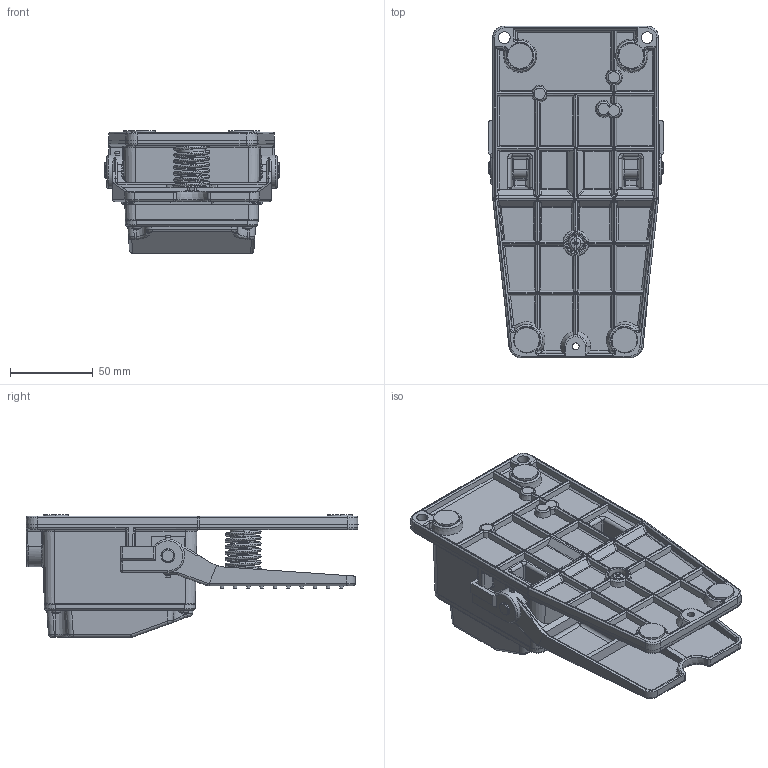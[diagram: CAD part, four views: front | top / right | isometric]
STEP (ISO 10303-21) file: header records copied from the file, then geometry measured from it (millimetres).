
FILE_DESCRIPTION((''),'2;1');
FILE_NAME('PRT0012','2016-09-12T',('ABS'),(''),'PRO/ENGINEER BY PARAMETRIC TECHNOLOGY CORPORATION, 2012360','PRO/ENGINEER BY PARAMETRIC TECHNOLOGY CORPORATION, 2012360','');
FILE_SCHEMA(('CONFIG_CONTROL_DESIGN'));
Products named in the file (1): PRT0012
Bounding box: 105.5 x 200 x 74 mm (x, y, z)
Volume: 232409.5 mm3; surface area: 139797.6 mm2
Topology: 1 solids, 6 shells, 1743 faces, 4498 edges, 2763 vertices
Faces by surface type: cylinder 604, plane 484, bspline 303, cone 162, torus 120, sphere 69, extrusion 1
Entity records: 78396 total; most frequent: CARTESIAN_POINT 39304, ORIENTED_EDGE 8850, DIRECTION 7173, EDGE_CURVE 4425, VERTEX_POINT 2763, AXIS2_PLACEMENT_3D 2711, EDGE_LOOP 1834, VECTOR 1751
